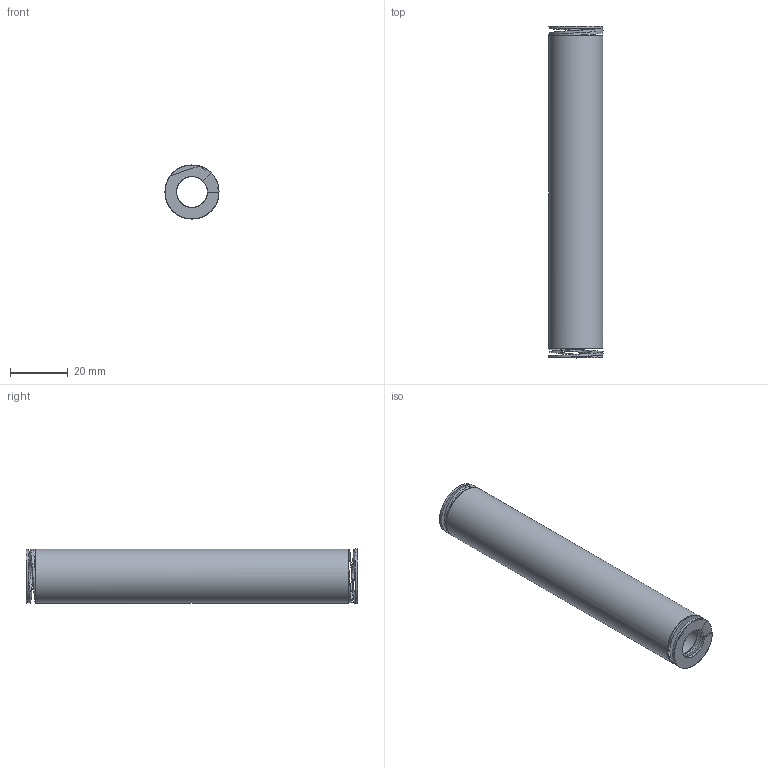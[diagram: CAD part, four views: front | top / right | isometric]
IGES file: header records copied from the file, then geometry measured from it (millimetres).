
Global section: file name: 1L19115; native system: Autodesk Inventor 2026; preprocessor: unknown; author: J. Iwanek; date: 20261007.110330; units: millimetre
Bounding box: 18.72 x 115 x 18.72 mm (x, y, z)
Volume: 11144 mm3; surface area: 11146.7 mm2
Topology: 1 solids, 1 shells, 22 faces, 66 edges, 42 vertices
Faces by surface type: bspline 22
